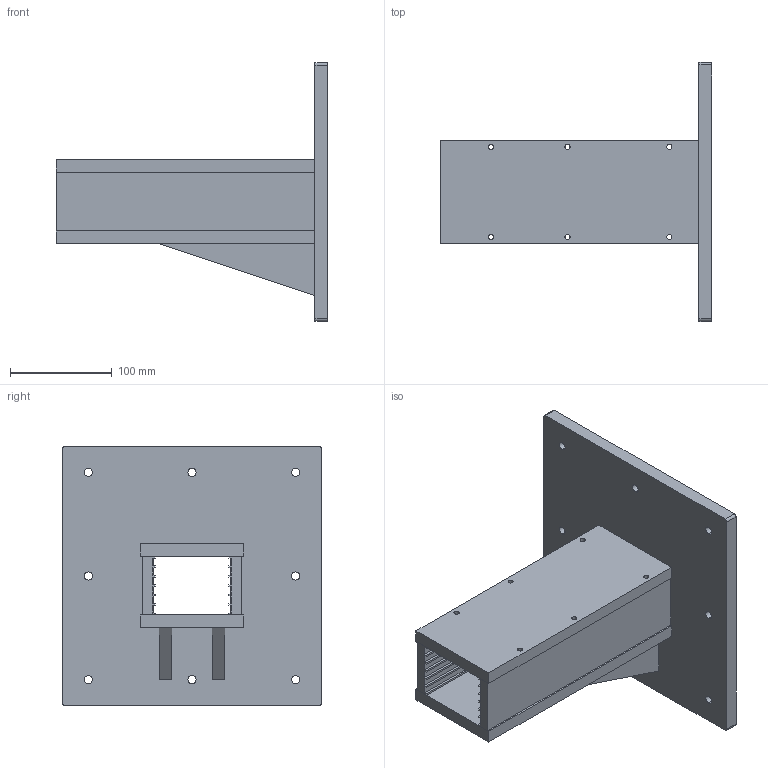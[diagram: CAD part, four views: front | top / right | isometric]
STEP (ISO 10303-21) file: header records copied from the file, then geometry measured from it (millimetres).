
FILE_DESCRIPTION (( 'STEP AP214' ), '1' );
FILE_NAME ('9.3_E3 Thin Test Fixture No Carrier.STEP', '2020-08-05T16:55:42', ( '' ), ( '' ), 'SwSTEP 2.0', 'SolidWorks 2019', '' );
FILE_SCHEMA (( 'AUTOMOTIVE_DESIGN' ));
Length unit declared in the file: millimetre
Products named in the file (7): WT EDSFF Mount Plate_Hogan; E3_6Thin_9.3Pitch_RightSideWall; EDSFFBottom_Hogan; TestStand_BaseSupport_Hogan; EDSFF Top_Hogan; E3_6Thin_9.3Pitch_LeftSideWall; 9.3_E3 Thin Test Fixture No Carrier
Assembly tree (7 placements, depth 2):
  9.3_E3 Thin Test Fixture No Carrier
    EDSFFBottom_Hogan
    EDSFF Top_Hogan
    TestStand_BaseSupport_Hogan  x2
    WT EDSFF Mount Plate_Hogan
    E3_6Thin_9.3Pitch_LeftSideWall
    E3_6Thin_9.3Pitch_RightSideWall
Bounding box: 266.7 x 254 x 254 mm (x, y, z)
Volume: 1808334 mm3; surface area: 381292.7 mm2
Topology: 7 solids, 7 shells, 232 faces, 610 edges, 382 vertices
Faces by surface type: cylinder 96, plane 92, cone 44
Entity records: 7090 total; most frequent: DIRECTION 1191, CARTESIAN_POINT 1126, ORIENTED_EDGE 1098, EDGE_CURVE 549, AXIS2_PLACEMENT_3D 421, VERTEX_POINT 356, VECTOR 349, LINE 349
